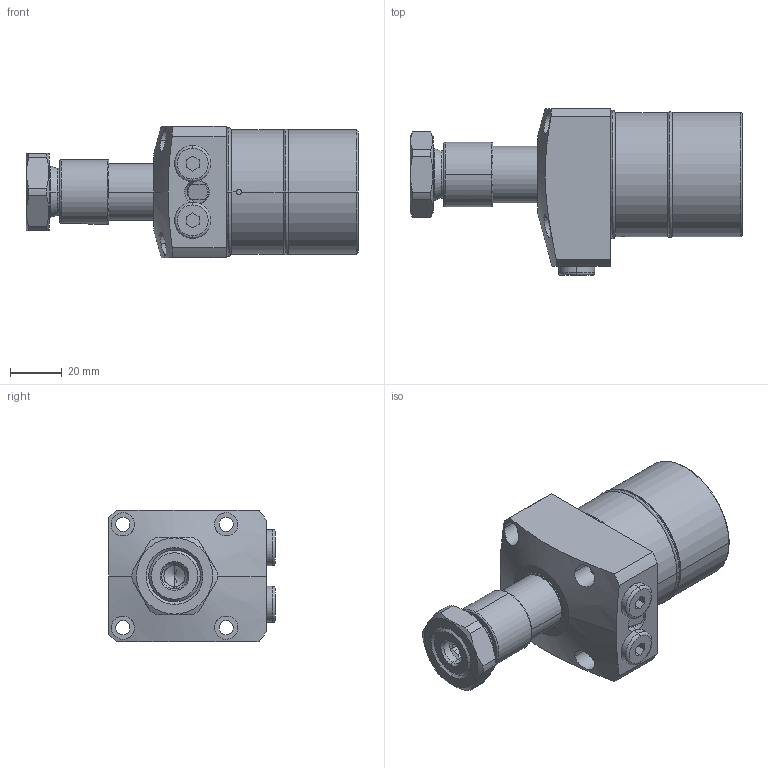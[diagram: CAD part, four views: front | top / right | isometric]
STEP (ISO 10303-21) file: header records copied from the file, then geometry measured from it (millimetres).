
FILE_DESCRIPTION(/* description */ (''),/* implementation_level */ '2;1');
FILE_NAME(/* name */ 'KTRW48-LH.stp',/* time_stamp */ '2022-11-18T12:53:37+08:00',/* author */ (''),/* organization */ (''),/* preprocessor_version */ 'ST-DEVELOPER v16.7',/* originating_system */ 'SIEMENS PLM Software NX 12.0',/* authorisation */ '');
FILE_SCHEMA (('AP203_CONFIGURATION_CONTROLLED_3D_DESIGN_OF_MECHANICAL_PARTS_AND_ASSEMBLIES_MIM_LF { 1 0 10303 403 2 1 2}'));
Length unit declared in the file: millimetre
Products named in the file (7): KTRW48-LH-05; KTRW48-LH-06; KTRW48-LH-01; KTRW48-LH-02; KTRW48-LH-03; KTRW48-LH-04; LHW0481-CLH_step
Assembly tree (9 placements, depth 2):
  LHW0481-CLH_step
    KTRW48-LH-04  x3
    KTRW48-LH-03
    KTRW48-LH-02
    KTRW48-LH-01
    KTRW48-LH-06  x2
    KTRW48-LH-05
Bounding box: 128.5 x 64.5 x 51 mm (x, y, z)
Volume: 185691.9 mm3; surface area: 36932.4 mm2
Topology: 11 solids, 11 shells, 343 faces, 774 edges, 475 vertices
Faces by surface type: cylinder 101, plane 101, torus 74, cone 65, sphere 2
Entity records: 9212 total; most frequent: CARTESIAN_POINT 1963, DIRECTION 1433, ORIENTED_EDGE 1260, EDGE_CURVE 630, AXIS2_PLACEMENT_3D 603, VERTEX_POINT 391, CIRCLE 318, EDGE_LOOP 311
